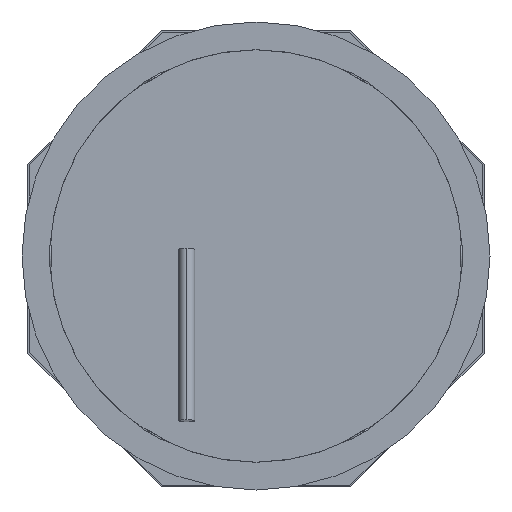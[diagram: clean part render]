
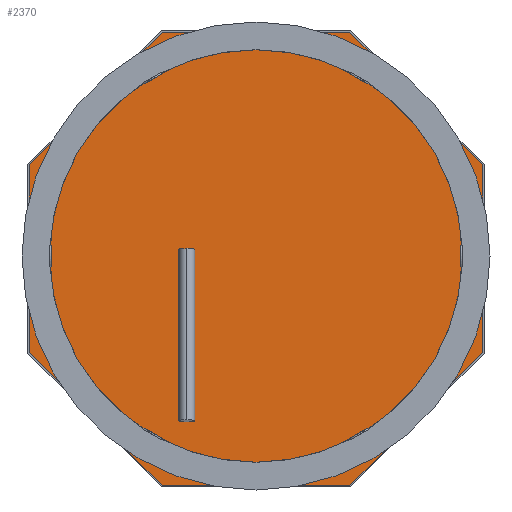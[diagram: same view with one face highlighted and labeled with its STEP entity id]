
A CAD part, front view. The second image highlights one B-rep face of the part: STEP entity #2370.
In plain terms, the highlighted planar face has unit normal (0, -1, 0).
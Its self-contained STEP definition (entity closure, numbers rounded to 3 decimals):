
#1899=DIRECTION('',(0.707,0.,-0.707));
#1900=VECTOR('',#1899,270.896);
#1901=CARTESIAN_POINT('',(-327.,52.,-139.448));
#1902=LINE('',#1901,#1900);
#1907=DIRECTION('',(1.,0.,0.));
#1908=VECTOR('',#1907,270.896);
#1909=CARTESIAN_POINT('',(-135.448,52.,-331.));
#1910=LINE('',#1909,#1908);
#1915=DIRECTION('',(0.707,0.,0.707));
#1916=VECTOR('',#1915,270.896);
#1917=CARTESIAN_POINT('',(135.448,52.,-331.));
#1918=LINE('',#1917,#1916);
#1923=DIRECTION('',(0.,0.,1.));
#1924=VECTOR('',#1923,270.896);
#1925=CARTESIAN_POINT('',(327.,52.,-139.448));
#1926=LINE('',#1925,#1924);
#1931=DIRECTION('',(-0.707,0.,0.707));
#1932=VECTOR('',#1931,270.896);
#1933=CARTESIAN_POINT('',(327.,52.,131.448));
#1934=LINE('',#1933,#1932);
#1939=DIRECTION('',(-1.,0.,0.));
#1940=VECTOR('',#1939,270.896);
#1941=CARTESIAN_POINT('',(135.448,52.,323.));
#1942=LINE('',#1941,#1940);
#1947=DIRECTION('',(-0.707,0.,-0.707));
#1948=VECTOR('',#1947,270.896);
#1949=CARTESIAN_POINT('',(-135.448,52.,323.));
#1950=LINE('',#1949,#1948);
#1955=DIRECTION('',(0.,0.,-1.));
#1956=VECTOR('',#1955,270.896);
#1957=CARTESIAN_POINT('',(-327.,52.,131.448));
#1958=LINE('',#1957,#1956);
#2291=CARTESIAN_POINT('',(-327.,52.,-139.448));
#2292=CARTESIAN_POINT('',(-135.448,52.,-331.));
#2293=VERTEX_POINT('',#2291);
#2294=VERTEX_POINT('',#2292);
#2295=CARTESIAN_POINT('',(135.448,52.,-331.));
#2296=VERTEX_POINT('',#2295);
#2297=CARTESIAN_POINT('',(327.,52.,-139.448));
#2298=VERTEX_POINT('',#2297);
#2299=CARTESIAN_POINT('',(327.,52.,131.448));
#2300=VERTEX_POINT('',#2299);
#2301=CARTESIAN_POINT('',(135.448,52.,323.));
#2302=VERTEX_POINT('',#2301);
#2303=CARTESIAN_POINT('',(-135.448,52.,323.));
#2304=VERTEX_POINT('',#2303);
#2305=CARTESIAN_POINT('',(-327.,52.,131.448));
#2306=VERTEX_POINT('',#2305);
#2347=CARTESIAN_POINT('',(0.,52.,0.));
#2348=DIRECTION('',(0.,1.,0.));
#2349=DIRECTION('',(1.,0.,0.));
#2350=AXIS2_PLACEMENT_3D('',#2347,#2348,#2349);
#2351=PLANE('',#2350);
#2353=ORIENTED_EDGE('',*,*,#2352,.F.);
#2355=ORIENTED_EDGE('',*,*,#2354,.F.);
#2357=ORIENTED_EDGE('',*,*,#2356,.F.);
#2359=ORIENTED_EDGE('',*,*,#2358,.F.);
#2361=ORIENTED_EDGE('',*,*,#2360,.F.);
#2363=ORIENTED_EDGE('',*,*,#2362,.F.);
#2365=ORIENTED_EDGE('',*,*,#2364,.F.);
#2367=ORIENTED_EDGE('',*,*,#2366,.F.);
#2368=EDGE_LOOP('',(#2353,#2355,#2357,#2359,#2361,#2363,#2365,#2367));
#2369=FACE_OUTER_BOUND('',#2368,.F.);
#2370=ADVANCED_FACE('',(#2369),#2351,.F.);
#2352=EDGE_CURVE('',#2293,#2294,#1902,.T.);
#2354=EDGE_CURVE('',#2306,#2293,#1958,.T.);
#2356=EDGE_CURVE('',#2304,#2306,#1950,.T.);
#2358=EDGE_CURVE('',#2302,#2304,#1942,.T.);
#2360=EDGE_CURVE('',#2300,#2302,#1934,.T.);
#2362=EDGE_CURVE('',#2298,#2300,#1926,.T.);
#2364=EDGE_CURVE('',#2296,#2298,#1918,.T.);
#2366=EDGE_CURVE('',#2294,#2296,#1910,.T.);
